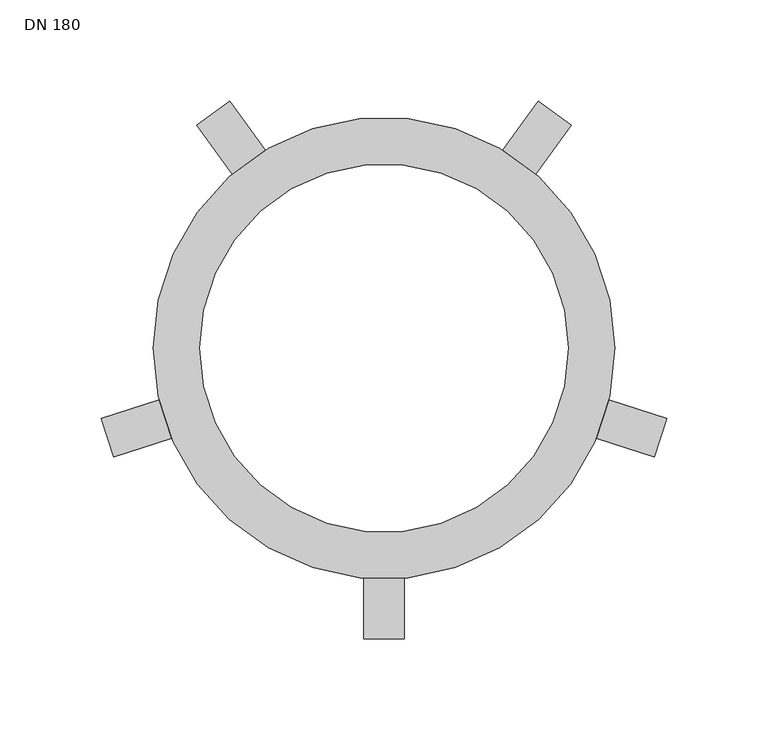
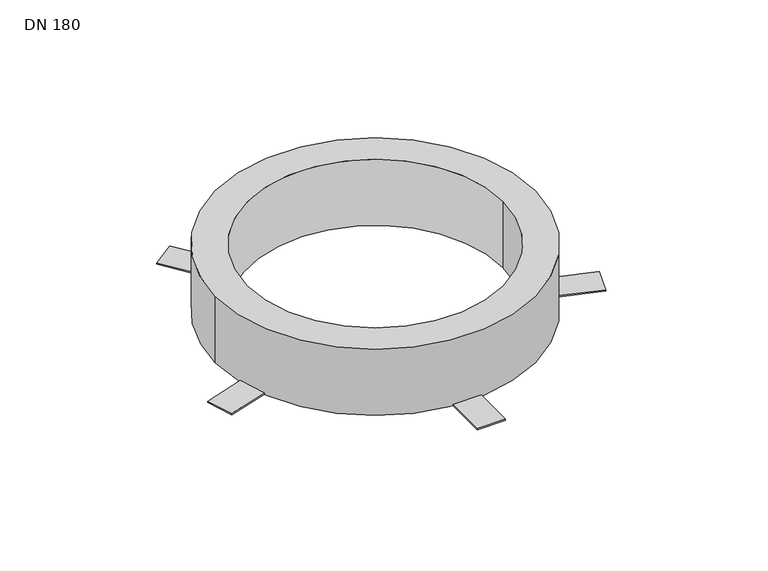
"""IFC4 building model written with IfcOpenShell, lengths in millimetres: proxy geometry, Wavin Brandmanschette für Decken : DN 180."""

from ifc_helpers import new_model, si_unit, point, origin, origin_with_axes, origin_2d, place, context, project, spatial, polyline, circle_curve, trimmed, segment, composite_curve, outline, extrude, source, transform, mapped, element, save


def dn_180_1f1de15e(model_context):
    return source(origin(), model_context, "Body", "SweptSolid", [
        extrude(outline(composite_curve([segment(polyline([(139.56678, -34.8333735), (133.3864401, -53.8545039), (104.9123373, -44.602707)]), True, "CONTINUOUS"), segment(trimmed(circle_curve(origin_2d(), 114.0), [point((104.9123373, -44.602707))], [point((111.0926772, -25.5815767))], True, "CARTESIAN"), True, "CONTINUOUS"), segment(polyline([(111.0926772, -25.5815767), (139.56678, -34.8333735)]), True, "CONTINUOUS")], self_intersect=False)), origin_with_axes(), (0.0, 0.0, 1.0), 1.0),
        extrude(outline(composite_curve([segment(polyline([(76.2570138, 121.9717912), (92.4373536, 110.2160862), (74.8393903, 85.9945676)]), True, "CONTINUOUS"), segment(trimmed(circle_curve(origin_2d(), 114.0), [point((74.8393903, 85.9945676))], [point((58.6590504, 97.7502726))], True, "CARTESIAN"), True, "CONTINUOUS"), segment(polyline([(58.6590504, 97.7502726), (76.2570138, 121.9717912)]), True, "CONTINUOUS")], self_intersect=False)), origin_with_axes(), (0.0, 0.0, 1.0), 1.0),
        extrude(outline(composite_curve([segment(polyline([(-92.4373536, 110.2160862), (-76.2570138, 121.9717912), (-58.6590504, 97.7502726)]), True, "CONTINUOUS"), segment(trimmed(circle_curve(origin_2d(), 114.0), [point((-58.6590504, 97.7502726))], [point((-74.8393903, 85.9945676))], True, "CARTESIAN"), True, "CONTINUOUS"), segment(polyline([(-74.8393903, 85.9945676), (-92.4373536, 110.2160862)]), True, "CONTINUOUS")], self_intersect=False)), origin_with_axes(), (0.0, 0.0, 1.0), 1.0),
        extrude(outline(composite_curve([segment(polyline([(-133.3864401, -53.8545039), (-139.56678, -34.8333735), (-111.0926772, -25.5815767)]), True, "CONTINUOUS"), segment(trimmed(circle_curve(origin_2d(), 114.0), [point((-111.0926772, -25.5815767))], [point((-104.9123373, -44.602707))], True, "CARTESIAN"), True, "CONTINUOUS"), segment(polyline([(-104.9123373, -44.602707), (-133.3864401, -53.8545039)]), True, "CONTINUOUS")], self_intersect=False)), origin_with_axes(), (0.0, 0.0, 1.0), 1.0),
        extrude(outline(composite_curve([segment(polyline([(10.0, -143.5), (-10.0, -143.5), (-10.0, -113.5605565)]), True, "CONTINUOUS"), segment(trimmed(circle_curve(origin_2d(), 114.0), [point((-10.0, -113.5605565))], [point((10.0, -113.5605565))], True, "CARTESIAN"), True, "CONTINUOUS"), segment(polyline([(10.0, -113.5605565), (10.0, -143.5)]), True, "CONTINUOUS")], self_intersect=False)), origin_with_axes(), (0.0, 0.0, 1.0), 1.0),
        extrude(outline(composite_curve([segment(trimmed(circle_curve(origin_2d(), 114.0), [point((-114.0, 0.0))], [point((114.0, 0.0))], False, "CARTESIAN"), True, "CONTINUOUS"), segment(trimmed(circle_curve(origin_2d(), 114.0), [point((114.0, 0.0))], [point((-114.0, 0.0))], False, "CARTESIAN"), True, "CONTINUOUS")], self_intersect=False), holes=[composite_curve([segment(trimmed(circle_curve(origin_2d(), 91.0), [point((-91.0, 0.0))], [point((91.0, 0.0))], True, "CARTESIAN"), True, "CONTINUOUS"), segment(trimmed(circle_curve(origin_2d(), 91.0), [point((91.0, 0.0))], [point((-91.0, 0.0))], True, "CARTESIAN"), True, "CONTINUOUS")], self_intersect=False)]), origin_with_axes(), (0.0, 0.0, 1.0), 50.0),
    ])


if __name__ == "__main__":
    model = new_model("IFC4")
    model_context = context("Model", 3, world=origin())
    ifc_project = project(units=[si_unit("LENGTHUNIT", "METRE", prefix="MILLI")], contexts=[model_context])
    site = spatial("IfcSite", under=ifc_project)
    building = spatial("IfcBuilding", under=site)
    placement = place(None, origin())
    dn_180_shape = dn_180_1f1de15e(model_context)
    element("IfcBuildingElementProxy", 1, Name="Wavin Brandmanschette für Decken : DN 180", ObjectType="Wavin Brandmanschette für Decken : DN 180", at=placement, inside=building, context=model_context, shape_type="MappedRepresentation", body=[
        mapped(dn_180_shape, transform((0.0, 0.0, 0.0), x_axis=(1.0, 0.0, 0.0), y_axis=(0.0, 1.0, 0.0), z_axis=(0.0, 0.0, 1.0))),
    ])
    save(model, "model.ifc")
